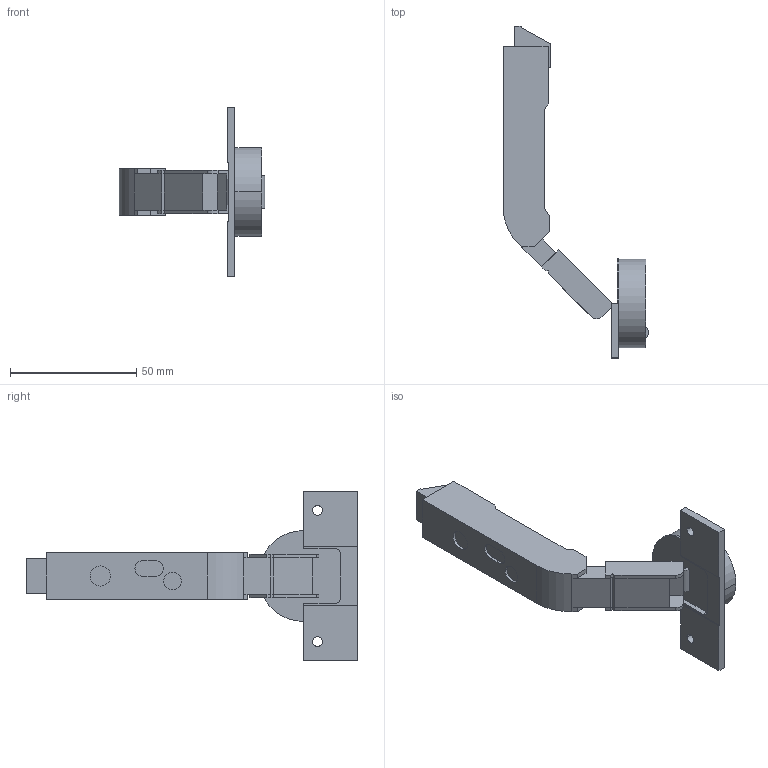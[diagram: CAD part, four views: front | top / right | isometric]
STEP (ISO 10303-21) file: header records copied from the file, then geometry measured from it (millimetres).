
FILE_DESCRIPTION (( 'STEP AP214' ), '1' );
FILE_NAME ('Scharnier T Click-on PCC H_BB.step', '2014-03-25T12:10:12', ( '' ), ( '' ), 'SwSTEP 2.0', 'SolidWorks 2013', '' );
FILE_SCHEMA (( 'AUTOMOTIVE_DESIGN' ));
Length unit declared in the file: millimetre
Products named in the file (1): Scharnier T Click-on PCC H_BB
Bounding box: 57.59 x 131.39 x 67 mm (x, y, z)
Volume: 44190 mm3; surface area: 14381 mm2
Topology: 1 solids, 1 shells, 94 faces, 242 edges, 156 vertices
Faces by surface type: plane 72, cylinder 22
Entity records: 2864 total; most frequent: CARTESIAN_POINT 493, ORIENTED_EDGE 484, DIRECTION 476, EDGE_CURVE 242, VECTOR 198, LINE 198, VERTEX_POINT 156, AXIS2_PLACEMENT_3D 139
